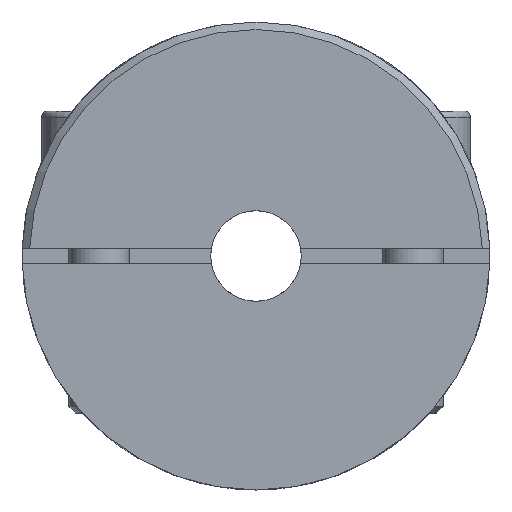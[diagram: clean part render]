
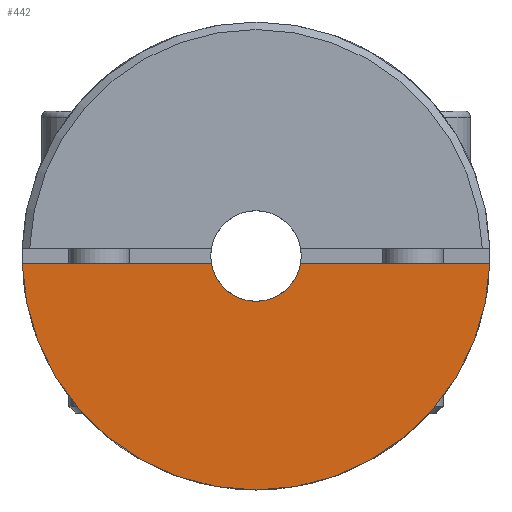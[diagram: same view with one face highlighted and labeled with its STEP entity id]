
A CAD part, left-side view. The second image highlights one B-rep face of the part: STEP entity #442.
In plain terms, the highlighted planar face has unit normal (-1, 0, 0) as drawn and (1, 0, 0) by its records, which use the part's own axes.
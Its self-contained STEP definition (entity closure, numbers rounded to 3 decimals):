
#442 = ADVANCED_FACE( '', ( #922 ), #923, .T. );
#922 = FACE_OUTER_BOUND( '', #1434, .T. );
#923 = PLANE( '', #1435 );
#1434 = EDGE_LOOP( '', ( #2157, #2158, #2159, #2160 ) );
#1435 = AXIS2_PLACEMENT_3D( '', #2161, #2162, #2163 );
#2157 = ORIENTED_EDGE( '', *, *, #2570, .F. );
#2158 = ORIENTED_EDGE( '', *, *, #2633, .T. );
#2159 = ORIENTED_EDGE( '', *, *, #2671, .T. );
#2160 = ORIENTED_EDGE( '', *, *, #2672, .T. );
#2161 = CARTESIAN_POINT( '', ( 7.3, 0., 7.75 ) );
#2162 = DIRECTION( '', ( 1., 0., 0. ) );
#2163 = DIRECTION( '', ( 0., 0., -1. ) );
#2570 = EDGE_CURVE( '', #2947, #2942, #2949, .T. );
#2633 = EDGE_CURVE( '', #2947, #3041, #3043, .T. );
#2671 = EDGE_CURVE( '', #3041, #3090, #3091, .T. );
#2672 = EDGE_CURVE( '', #3090, #2942, #3092, .T. );
#2942 = VERTEX_POINT( '', #3490 );
#2947 = VERTEX_POINT( '', #3496 );
#2949 = CIRCLE( '', #3499, 7.75 );
#3041 = VERTEX_POINT( '', #3640 );
#3043 = LINE( '', #3643, #3644 );
#3090 = VERTEX_POINT( '', #3738 );
#3091 = CIRCLE( '', #3739, 1.5 );
#3092 = LINE( '', #3740, #3741 );
#3490 = CARTESIAN_POINT( '', ( 7.3, -7.746, -0.25 ) );
#3496 = CARTESIAN_POINT( '', ( 7.3, 7.746, -0.25 ) );
#3499 = AXIS2_PLACEMENT_3D( '', #4020, #4021, #4022 );
#3640 = CARTESIAN_POINT( '', ( 7.3, 1.479, -0.25 ) );
#3643 = CARTESIAN_POINT( '', ( 7.3, 0., -0.25 ) );
#3644 = VECTOR( '', #4116, 1000. );
#3738 = CARTESIAN_POINT( '', ( 7.3, -1.479, -0.25 ) );
#3739 = AXIS2_PLACEMENT_3D( '', #4156, #4157, #4158 );
#3740 = CARTESIAN_POINT( '', ( 7.3, 0., -0.25 ) );
#3741 = VECTOR( '', #4159, 1000. );
#4020 = CARTESIAN_POINT( '', ( 7.3, 0., 0. ) );
#4021 = DIRECTION( '', ( -1., 0., 0. ) );
#4022 = DIRECTION( '', ( 0., 0., 1. ) );
#4116 = DIRECTION( '', ( 0., -1., 0. ) );
#4156 = CARTESIAN_POINT( '', ( 7.3, 0., 0. ) );
#4157 = DIRECTION( '', ( -1., 0., 0. ) );
#4158 = DIRECTION( '', ( 0., 0., 1. ) );
#4159 = DIRECTION( '', ( 0., -1., 0. ) );
